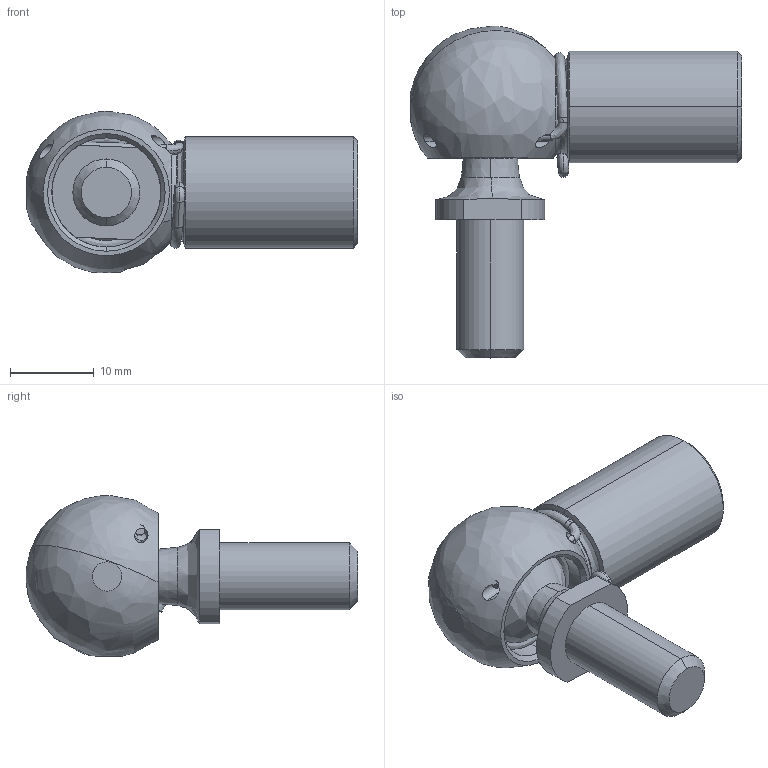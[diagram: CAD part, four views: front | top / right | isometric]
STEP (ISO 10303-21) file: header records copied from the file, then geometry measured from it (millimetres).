
FILE_DESCRIPTION (( 'STEP AP214' ), '1' );
FILE_NAME ('13.CS13M10M8.STEP', '2017-10-28T12:06:44', ( '' ), ( '' ), 'SwSTEP 2.0', 'SolidWorks 2016', '' );
FILE_SCHEMA (( 'AUTOMOTIVE_DESIGN' ));
Length unit declared in the file: millimetre
Products named in the file (1): 13.CS13M10M8
Bounding box: 39.54 x 39.65 x 19.25 mm (x, y, z)
Volume: 6327 mm3; surface area: 4424.9 mm2
Topology: 1 solids, 1 shells, 88 faces, 250 edges, 157 vertices
Faces by surface type: bspline 32, cylinder 26, plane 16, cone 14
Entity records: 9426 total; most frequent: CARTESIAN_POINT 7437, ORIENTED_EDGE 470, DIRECTION 329, EDGE_CURVE 235, VERTEX_POINT 157, AXIS2_PLACEMENT_3D 142, EDGE_LOOP 100, B_SPLINE_CURVE_WITH_KNOTS 95
